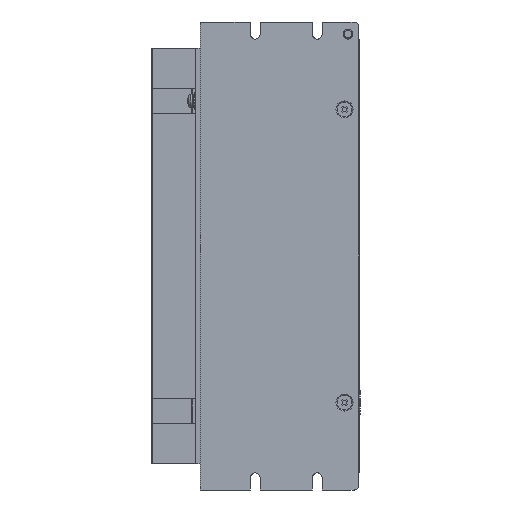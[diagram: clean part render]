
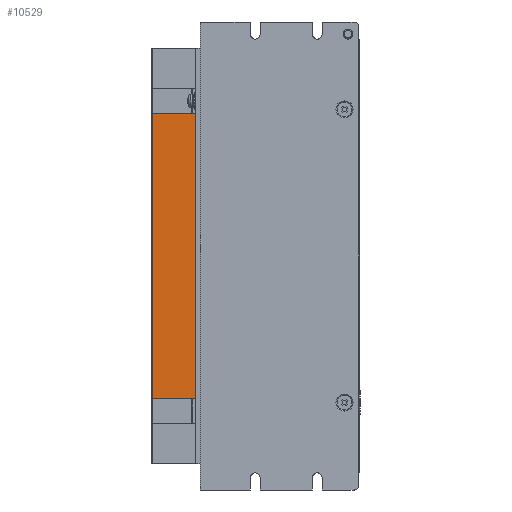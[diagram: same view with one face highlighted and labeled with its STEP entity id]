
A CAD part, front view. The second image highlights one B-rep face of the part: STEP entity #10529.
In plain terms, the highlighted planar face has unit normal (0, -1, 0).
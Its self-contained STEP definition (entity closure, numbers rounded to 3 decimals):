
#10529 = ADVANCED_FACE ( 'NONE', ( #99205 ), #95464, .T. ) ;
#12630 = AXIS2_PLACEMENT_3D ( 'NONE', #95458, #95468, #95470 ) ;
#28128 = VERTEX_POINT ( 'NONE', #43990 ) ;
#28135 = VERTEX_POINT ( 'NONE', #44001 ) ;
#28441 = VERTEX_POINT ( 'NONE', #44372 ) ;
#28445 = VERTEX_POINT ( 'NONE', #44374 ) ;
#37315 = VECTOR ( 'NONE', #41409, 1000. ) ;
#37317 = LINE ( 'NONE', #41408, #37315 ) ;
#41408 = CARTESIAN_POINT ( 'NONE',  ( -117.678, 40.482, -57.372 ) ) ;
#41409 = DIRECTION ( 'NONE',  ( 0., 0., -1. ) ) ;
#43990 = CARTESIAN_POINT ( 'NONE',  ( -99.978, 40.482, -30.872 ) ) ;
#44001 = CARTESIAN_POINT ( 'NONE',  ( -99.978, 40.482, 86.128 ) ) ;
#44372 = CARTESIAN_POINT ( 'NONE',  ( -117.678, 40.482, -30.872 ) ) ;
#44374 = CARTESIAN_POINT ( 'NONE',  ( -117.678, 40.482, 86.128 ) ) ;
#70894 = LINE ( 'NONE', #72989, #70896 ) ;
#70896 = VECTOR ( 'NONE', #72990, 1000. ) ;
#70910 = LINE ( 'NONE', #72998, #70912 ) ;
#70912 = VECTOR ( 'NONE', #72999, 1000. ) ;
#70918 = LINE ( 'NONE', #73002, #70920 ) ;
#70920 = VECTOR ( 'NONE', #73003, 1000. ) ;
#72989 = CARTESIAN_POINT ( 'NONE',  ( -99.978, 40.482, 86.128 ) ) ;
#72990 = DIRECTION ( 'NONE',  ( -1., 0., 0. ) ) ;
#72998 = CARTESIAN_POINT ( 'NONE',  ( -117.978, 40.482, -30.872 ) ) ;
#72999 = DIRECTION ( 'NONE',  ( -1., 0., 0. ) ) ;
#73002 = CARTESIAN_POINT ( 'NONE',  ( -99.978, 40.482, -57.372 ) ) ;
#73003 = DIRECTION ( 'NONE',  ( 0., 0., -1. ) ) ;
#82603 = EDGE_CURVE ( 'NONE', #28445, #28441, #37317, .T. ) ;
#90027 = ORIENTED_EDGE ( 'NONE', *, *, #101213, .F. ) ;
#90028 = ORIENTED_EDGE ( 'NONE', *, *, #101207, .T. ) ;
#90029 = ORIENTED_EDGE ( 'NONE', *, *, #82603, .T. ) ;
#90030 = ORIENTED_EDGE ( 'NONE', *, *, #101211, .F. ) ;
#95458 = CARTESIAN_POINT ( 'NONE',  ( -99.978, 40.482, -57.372 ) ) ;
#95464 = PLANE ( 'NONE',  #12630 ) ;
#95468 = DIRECTION ( 'NONE',  ( 0., -1., 0. ) ) ;
#95470 = DIRECTION ( 'NONE',  ( 0., 0., -1. ) ) ;
#98787 = EDGE_LOOP ( 'NONE', ( #90027, #90028, #90029, #90030 ) ) ;
#99205 = FACE_OUTER_BOUND ( 'NONE', #98787, .T. ) ;
#101207 = EDGE_CURVE ( 'NONE', #28135, #28445, #70894, .T. ) ;
#101211 = EDGE_CURVE ( 'NONE', #28128, #28441, #70910, .T. ) ;
#101213 = EDGE_CURVE ( 'NONE', #28135, #28128, #70918, .T. ) ;
